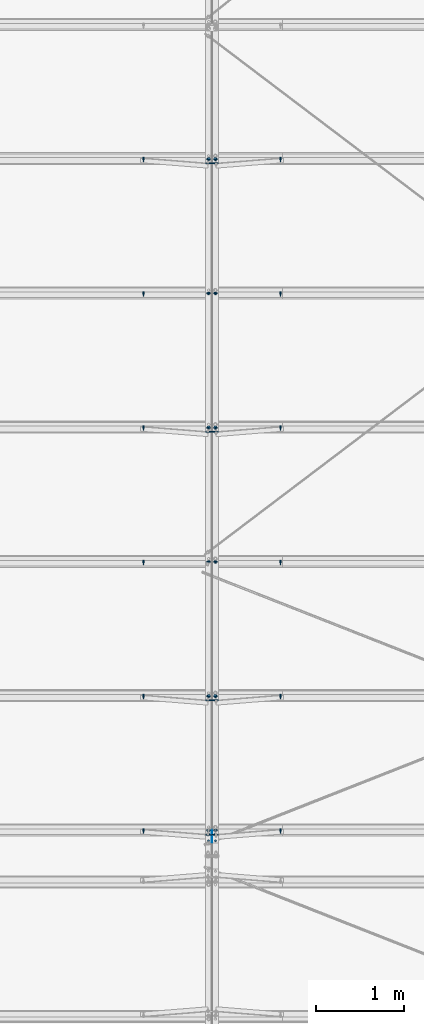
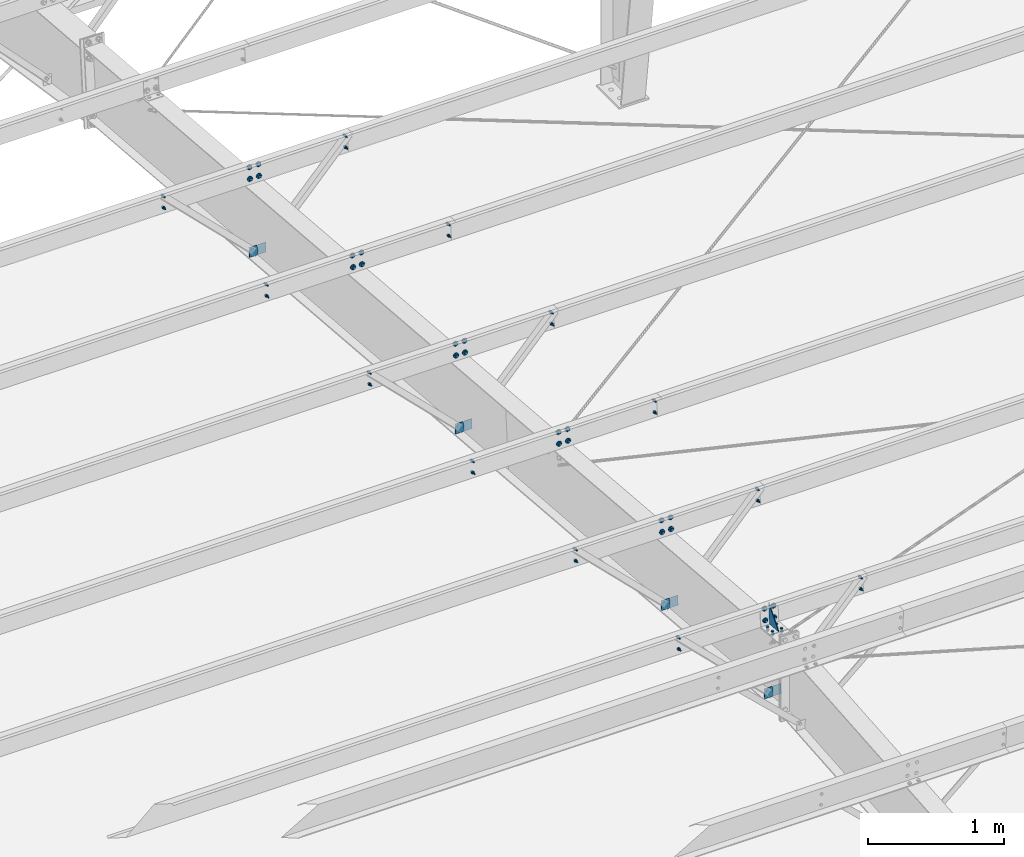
# One storey, part 95 of 185: 25 mechanical fasteners, 9 discrete accessories, 14 elements without a shape of their own.
"""IFC2X3 building model written with IfcOpenShell, lengths in millimetres."""

from ifc_helpers import new_model, si_unit, frame, origin_with_axes, origin_2d_with_axis, place, context, subcontext, project, spatial, polyline, rectangle, circle, outline, extrude, source, transform, mapped, material, type_object, element, aggregate, save


model = new_model("IFC2X3")

# Units and contexts
model_context = context("Model", 3, precision=1e-05, world=origin_with_axes())
body_context = subcontext(model_context, "Body", "Model", "MODEL_VIEW")
ifc_project = project(units=[si_unit("LENGTHUNIT", "METRE", prefix="MILLI"), si_unit("AREAUNIT", "SQUARE_METRE"), si_unit("VOLUMEUNIT", "CUBIC_METRE"), si_unit("MASSUNIT", "GRAM", prefix="KILO"), si_unit("TIMEUNIT", "SECOND"), si_unit("PLANEANGLEUNIT", "RADIAN"), si_unit("SOLIDANGLEUNIT", "STERADIAN"), si_unit("THERMODYNAMICTEMPERATUREUNIT", "DEGREE_CELSIUS"), si_unit("LUMINOUSINTENSITYUNIT", "LUMEN")], contexts=[model_context])

# Site, building, storey
site_placement = place(None, origin_with_axes())
site = spatial("IfcSite", under=ifc_project, at=site_placement, Name="Undefined", CompositionType="ELEMENT")
building_placement = place(site_placement, origin_with_axes())
building = spatial("IfcBuilding", under=site, at=building_placement, Name="Undefined", CompositionType="ELEMENT")
storey_placement = place(building_placement, origin_with_axes())
storey = spatial("IfcBuildingStorey", under=building, at=storey_placement, Name="Undefined", CompositionType="ELEMENT", Elevation=0.0)

# Assembly, mechanical fastener
assembly_1_placement = place(storey_placement, origin_with_axes())
assembly_1 = element("IfcElementAssembly", 1, at=assembly_1_placement, inside=storey, Name="Steel Assembly", AssemblyPlace="NOTDEFINED", PredefinedType="RIGID_FRAME")
ifc_material_1 = material(Name="Undefined")
discrete_accessory_type_1 = type_object("IfcDiscreteAccessoryType", Name="Bolt assembly")
shared_shape_1 = source(origin_with_axes(), body_context, "Body", "SweptSolid", [
    extrude(circle(Radius=7.14374971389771, at=origin_2d_with_axis()), frame((0.0, -1.59000001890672, 0.0), z_axis=(0.0, 1.0, 0.0), x_axis=(1.0, 0.0, 0.0)), (0.0, 0.0, 1.0), 3.3),
    extrude(circle(Radius=13.4937496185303, at=origin_2d_with_axis()), frame((0.0, -5.5587500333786, 0.0), z_axis=(0.0, 1.0, 0.0), x_axis=(1.0, 0.0, 0.0)), (0.0, 0.0, 1.0), 4.0),
    extrude(circle(Radius=22.2250003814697, at=origin_2d_with_axis()), frame((0.0, 1.5900000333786, 0.0), z_axis=(0.0, 1.0, 0.0), x_axis=(1.0, 0.0, 0.0)), (0.0, 0.0, 1.0), 7.9),
    extrude(outline(polyline([(12.8316099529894, 0.0), (6.4158049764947, 11.1125001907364), (-6.4158049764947, 11.1125001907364), (-12.8316099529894, 0.0), (-6.4158049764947, -11.1125001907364), (6.4158049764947, -11.1125001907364), (12.8316099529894, 0.0)])), frame((0.0, 9.5275000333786, 0.0), z_axis=(0.0, 1.0, 0.0), x_axis=(1.0, 0.0, 0.0)), (0.0, 0.0, 1.0), 12.3),
])
mechanical_fastener_1_placement = place(assembly_1_placement, frame((30060.9, 23895.2066900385, 6720.75669348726), z_axis=(-1.0, 0.0, 0.0), x_axis=(0.0, -0.0830454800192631, -0.996545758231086)))
mechanical_fastener_1 = element("IfcMechanicalFastener", 2, at=mechanical_fastener_1_placement, type_object=discrete_accessory_type_1, material=ifc_material_1, Name="Bolt assembly", NominalDiameter=12.6999998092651, NominalLength=38.0999984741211, context=body_context, shape_type="MappedRepresentation", body=[
    mapped(shared_shape_1, transform((0.0, 0.0, 0.0))),
    mapped(shared_shape_1, transform((101.599998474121, 0.0, 0.0))),
])
aggregate(assembly_1, [mechanical_fastener_1])

assembly_2_placement = place(storey_placement, origin_with_axes())
assembly_2 = element("IfcElementAssembly", 3, at=assembly_2_placement, inside=storey, Name="Steel Assembly", AssemblyPlace="NOTDEFINED", PredefinedType="RIGID_FRAME")
mechanical_fastener_2_placement = place(assembly_2_placement, frame((30137.1, 23895.2066900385, 6720.75669348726), z_axis=(-1.0, 0.0, 0.0), x_axis=(0.0, -0.0830454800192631, -0.996545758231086)))
mechanical_fastener_2 = element("IfcMechanicalFastener", 4, at=mechanical_fastener_2_placement, type_object=discrete_accessory_type_1, material=ifc_material_1, Name="Bolt assembly", NominalDiameter=12.6999998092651, NominalLength=38.0999984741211, context=body_context, shape_type="MappedRepresentation", body=[
    mapped(shared_shape_1, transform((0.0, 0.0, 0.0))),
    mapped(shared_shape_1, transform((101.599998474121, 0.0, 0.0))),
])

assembly_3_placement = place(storey_placement, origin_with_axes())
assembly_3 = element("IfcElementAssembly", 5, at=assembly_3_placement, inside=storey, Name="Steel Assembly", AssemblyPlace="NOTDEFINED", PredefinedType="RIGID_FRAME")
mechanical_fastener_3_placement = place(assembly_3_placement, frame((30060.9, 22376.4709544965, 6847.31800504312), z_axis=(-1.0, 0.0, 0.0), x_axis=(0.0, -0.0830454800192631, -0.996545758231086)))
mechanical_fastener_3 = element("IfcMechanicalFastener", 6, at=mechanical_fastener_3_placement, type_object=discrete_accessory_type_1, material=ifc_material_1, Name="Bolt assembly", NominalDiameter=12.6999998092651, NominalLength=38.0999984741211, context=body_context, shape_type="MappedRepresentation", body=[
    mapped(shared_shape_1, transform((0.0, 0.0, 0.0))),
    mapped(shared_shape_1, transform((101.599998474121, 0.0, 0.0))),
])
aggregate(assembly_3, [mechanical_fastener_3])

assembly_4_placement = place(storey_placement, origin_with_axes())
assembly_4 = element("IfcElementAssembly", 7, at=assembly_4_placement, inside=storey, Name="Steel Assembly", AssemblyPlace="NOTDEFINED", PredefinedType="RIGID_FRAME")
mechanical_fastener_4_placement = place(assembly_4_placement, frame((30137.1, 22376.4709544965, 6847.31800504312), z_axis=(-1.0, 0.0, 0.0), x_axis=(0.0, -0.0830454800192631, -0.996545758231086)))
mechanical_fastener_4 = element("IfcMechanicalFastener", 8, at=mechanical_fastener_4_placement, type_object=discrete_accessory_type_1, material=ifc_material_1, Name="Bolt assembly", NominalDiameter=12.6999998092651, NominalLength=38.0999984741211, context=body_context, shape_type="MappedRepresentation", body=[
    mapped(shared_shape_1, transform((0.0, 0.0, 0.0))),
    mapped(shared_shape_1, transform((101.599998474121, 0.0, 0.0))),
])

assembly_5_placement = place(storey_placement, origin_with_axes())
assembly_5 = element("IfcElementAssembly", 9, at=assembly_5_placement, inside=storey, Name="Steel Assembly", AssemblyPlace="NOTDEFINED", PredefinedType="RIGID_FRAME")
mechanical_fastener_5_placement = place(assembly_5_placement, frame((30060.9, 20857.7352189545, 6973.87931659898), z_axis=(-1.0, 0.0, 0.0), x_axis=(0.0, -0.0830454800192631, -0.996545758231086)))
mechanical_fastener_5 = element("IfcMechanicalFastener", 10, at=mechanical_fastener_5_placement, type_object=discrete_accessory_type_1, material=ifc_material_1, Name="Bolt assembly", NominalDiameter=12.6999998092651, NominalLength=38.0999984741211, context=body_context, shape_type="MappedRepresentation", body=[
    mapped(shared_shape_1, transform((0.0, 0.0, 0.0))),
    mapped(shared_shape_1, transform((101.599998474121, 0.0, 0.0))),
])
aggregate(assembly_5, [mechanical_fastener_5])

assembly_6_placement = place(storey_placement, origin_with_axes())
assembly_6 = element("IfcElementAssembly", 11, at=assembly_6_placement, inside=storey, Name="Steel Assembly", AssemblyPlace="NOTDEFINED", PredefinedType="RIGID_FRAME")
mechanical_fastener_6_placement = place(assembly_6_placement, frame((30137.1, 20857.7352189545, 6973.87931659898), z_axis=(-1.0, 0.0, 0.0), x_axis=(0.0, -0.0830454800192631, -0.996545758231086)))
mechanical_fastener_6 = element("IfcMechanicalFastener", 12, at=mechanical_fastener_6_placement, type_object=discrete_accessory_type_1, material=ifc_material_1, Name="Bolt assembly", NominalDiameter=12.6999998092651, NominalLength=38.0999984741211, context=body_context, shape_type="MappedRepresentation", body=[
    mapped(shared_shape_1, transform((0.0, 0.0, 0.0))),
    mapped(shared_shape_1, transform((101.599998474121, 0.0, 0.0))),
])

assembly_7_placement = place(storey_placement, origin_with_axes())
assembly_7 = element("IfcElementAssembly", 13, at=assembly_7_placement, inside=storey, Name="Steel Assembly", AssemblyPlace="NOTDEFINED", PredefinedType="RIGID_FRAME")
mechanical_fastener_7_placement = place(assembly_7_placement, frame((30060.9, 19338.9994834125, 7100.44062815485), z_axis=(-1.0, 0.0, 0.0), x_axis=(0.0, -0.0830454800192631, -0.996545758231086)))
mechanical_fastener_7 = element("IfcMechanicalFastener", 14, at=mechanical_fastener_7_placement, type_object=discrete_accessory_type_1, material=ifc_material_1, Name="Bolt assembly", NominalDiameter=12.6999998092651, NominalLength=38.0999984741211, context=body_context, shape_type="MappedRepresentation", body=[
    mapped(shared_shape_1, transform((0.0, 0.0, 0.0))),
    mapped(shared_shape_1, transform((101.599998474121, 0.0, 0.0))),
])
aggregate(assembly_7, [mechanical_fastener_7])

assembly_8_placement = place(storey_placement, origin_with_axes())
assembly_8 = element("IfcElementAssembly", 15, at=assembly_8_placement, inside=storey, Name="Steel Assembly", AssemblyPlace="NOTDEFINED", PredefinedType="RIGID_FRAME")
mechanical_fastener_8_placement = place(assembly_8_placement, frame((30137.1, 19338.9994834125, 7100.44062815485), z_axis=(-1.0, 0.0, 0.0), x_axis=(0.0, -0.0830454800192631, -0.996545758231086)))
mechanical_fastener_8 = element("IfcMechanicalFastener", 16, at=mechanical_fastener_8_placement, type_object=discrete_accessory_type_1, material=ifc_material_1, Name="Bolt assembly", NominalDiameter=12.6999998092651, NominalLength=38.0999984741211, context=body_context, shape_type="MappedRepresentation", body=[
    mapped(shared_shape_1, transform((0.0, 0.0, 0.0))),
    mapped(shared_shape_1, transform((101.599998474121, 0.0, 0.0))),
])

assembly_9_placement = place(storey_placement, origin_with_axes())
assembly_9 = element("IfcElementAssembly", 17, at=assembly_9_placement, inside=storey, Name="Steel Assembly", AssemblyPlace="NOTDEFINED", PredefinedType="RIGID_FRAME")
mechanical_fastener_9_placement = place(assembly_9_placement, frame((30060.9, 17820.2637478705, 7227.00193971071), z_axis=(-1.0, 0.0, 0.0), x_axis=(0.0, -0.0830454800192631, -0.996545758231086)))
mechanical_fastener_9 = element("IfcMechanicalFastener", 18, at=mechanical_fastener_9_placement, type_object=discrete_accessory_type_1, material=ifc_material_1, Name="Bolt assembly", NominalDiameter=12.6999998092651, NominalLength=38.0999984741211, context=body_context, shape_type="MappedRepresentation", body=[
    mapped(shared_shape_1, transform((0.0, 0.0, 0.0))),
    mapped(shared_shape_1, transform((101.599998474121, 0.0, 0.0))),
])
aggregate(assembly_9, [mechanical_fastener_9])

assembly_10_placement = place(storey_placement, origin_with_axes())
assembly_10 = element("IfcElementAssembly", 19, at=assembly_10_placement, inside=storey, Name="Steel Assembly", AssemblyPlace="NOTDEFINED", PredefinedType="RIGID_FRAME")
mechanical_fastener_10_placement = place(assembly_10_placement, frame((30137.1, 17820.2637478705, 7227.00193971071), z_axis=(-1.0, 0.0, 0.0), x_axis=(0.0, -0.0830454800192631, -0.996545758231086)))
mechanical_fastener_10 = element("IfcMechanicalFastener", 20, at=mechanical_fastener_10_placement, type_object=discrete_accessory_type_1, material=ifc_material_1, Name="Bolt assembly", NominalDiameter=12.6999998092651, NominalLength=38.0999984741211, context=body_context, shape_type="MappedRepresentation", body=[
    mapped(shared_shape_1, transform((0.0, 0.0, 0.0))),
    mapped(shared_shape_1, transform((101.599998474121, 0.0, 0.0))),
])

assembly_11_placement = place(storey_placement, origin_with_axes())
assembly_11 = element("IfcElementAssembly", 21, at=assembly_11_placement, inside=storey, Name="Steel Assembly", AssemblyPlace="NOTDEFINED", PredefinedType="RIGID_FRAME")
mechanical_fastener_11_placement = place(assembly_11_placement, frame((30060.9, 16301.5280123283, 7353.56325126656), z_axis=(-1.0, 0.0, 0.0), x_axis=(0.0, -0.0830454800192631, -0.996545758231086)))
mechanical_fastener_11 = element("IfcMechanicalFastener", 22, at=mechanical_fastener_11_placement, type_object=discrete_accessory_type_1, material=ifc_material_1, Name="Bolt assembly", NominalDiameter=12.6999998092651, NominalLength=38.0999984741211, context=body_context, shape_type="MappedRepresentation", body=[
    mapped(shared_shape_1, transform((0.0, 0.0, 0.0))),
    mapped(shared_shape_1, transform((101.599998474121, 0.0, 0.0))),
])
aggregate(assembly_11, [mechanical_fastener_11])

assembly_12_placement = place(storey_placement, origin_with_axes())
assembly_12 = element("IfcElementAssembly", 23, at=assembly_12_placement, inside=storey, Name="Steel Assembly", AssemblyPlace="NOTDEFINED", PredefinedType="RIGID_FRAME")
mechanical_fastener_12_placement = place(assembly_12_placement, frame((30137.1, 16301.5280123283, 7353.56325126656), z_axis=(-1.0, 0.0, 0.0), x_axis=(0.0, -0.0830454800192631, -0.996545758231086)))
mechanical_fastener_12 = element("IfcMechanicalFastener", 24, at=mechanical_fastener_12_placement, type_object=discrete_accessory_type_1, material=ifc_material_1, Name="Bolt assembly", NominalDiameter=12.6999998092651, NominalLength=38.0999984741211, context=body_context, shape_type="MappedRepresentation", body=[
    mapped(shared_shape_1, transform((0.0, 0.0, 0.0))),
    mapped(shared_shape_1, transform((101.599998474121, 0.0, 0.0))),
])

# Assembly, discrete accessory
assembly_13_placement = place(storey_placement, origin_with_axes())
assembly_13 = element("IfcElementAssembly", 25, at=assembly_13_placement, inside=storey, Name="Steel Assembly", AssemblyPlace="NOTDEFINED", PredefinedType="RIGID_FRAME")
ifc_material_2 = material(Name="STEEL/55")
discrete_accessory_type_2 = type_object("IfcDiscreteAccessoryType", Name="PLATE")
discrete_accessory_1_placement = place(assembly_13_placement, frame((30099.0, 16150.1817775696, 7219.6191968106), z_axis=(1.0, 0.0, 0.0), x_axis=(0.0, 0.996545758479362, -0.0830454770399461)))
discrete_accessory_1 = element("IfcDiscreteAccessory", 26, at=discrete_accessory_1_placement, type_object=discrete_accessory_type_2, material=ifc_material_2, Name="PLATE", ObjectType="FL1/4\"X5 1/4\"", context=body_context, shape_type="SweptSolid", body=[
    extrude(outline(polyline([(0.0, 0.0), (133.350006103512, 3.70164343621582e-10), (133.350006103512, 190.500000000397), (0.0, 0.0)])), frame((0.0, 0.0, -3.175), z_axis=(0.0, 0.0, 1.0), x_axis=(1.0, 0.0, 0.0)), (0.0, 0.0, 1.0), 6.4),
])

# Assembly, discrete accessories
assembly_14_placement = place(storey_placement, origin_with_axes())
assembly_14 = element("IfcElementAssembly", 27, at=assembly_14_placement, inside=storey, Name="Steel Assembly", AssemblyPlace="NOTDEFINED", PredefinedType="RIGID_FRAME")
discrete_accessory_type_3 = type_object("IfcDiscreteAccessoryType", Name="FLANGE BRACE FLIP")
discrete_accessory_2_placement = place(assembly_14_placement, frame((30097.29185, 23836.5274434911, 5996.03869127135), z_axis=(0.0, 0.0830454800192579, 0.996545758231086), x_axis=(-1.0, 0.0, 0.0)))
discrete_accessory_2 = element("IfcDiscreteAccessory", 28, at=discrete_accessory_2_placement, type_object=discrete_accessory_type_3, material=ifc_material_2, Name="FLANGE BRACE FLIP", ObjectType="PL1/8\"X2 3/4\"", context=body_context, shape_type="SweptSolid", body=[
    extrude(rectangle(XDim=3.416, YDim=85.725, at=origin_2d_with_axis()), frame((69.8499999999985, 0.0, 0.0), z_axis=(-1.0, 0.0, 0.0), x_axis=(0.0, -1.0, 0.0)), (0.0, 0.0, 1.0), 69.8),
])
discrete_accessory_3_placement = place(assembly_14_placement, frame((30100.70815, 23836.5274434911, 5996.03869127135), z_axis=(0.0, 0.0830454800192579, 0.996545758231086), x_axis=(1.0, 0.0, 0.0)))
discrete_accessory_3 = element("IfcDiscreteAccessory", 29, at=discrete_accessory_3_placement, type_object=discrete_accessory_type_3, material=ifc_material_2, Name="FLANGE BRACE FLIP", ObjectType="PL1/8\"X2 3/4\"", context=body_context, shape_type="SweptSolid", body=[
    extrude(rectangle(XDim=3.416, YDim=85.725, at=origin_2d_with_axis()), frame((69.8499999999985, 0.0, 0.0), z_axis=(-1.0, 0.0, 0.0), x_axis=(0.0, -1.0, 0.0)), (0.0, 0.0, 1.0), 69.8),
])
discrete_accessory_4_placement = place(assembly_14_placement, frame((30097.29185, 16242.8487656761, 6628.84524779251), z_axis=(0.0, 0.0830454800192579, 0.996545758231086), x_axis=(-1.0, 0.0, 0.0)))
discrete_accessory_4 = element("IfcDiscreteAccessory", 30, at=discrete_accessory_4_placement, type_object=discrete_accessory_type_3, material=ifc_material_2, Name="FLANGE BRACE FLIP", ObjectType="PL1/8\"X2 3/4\"", context=body_context, shape_type="SweptSolid", body=[
    extrude(rectangle(XDim=3.416, YDim=85.725, at=origin_2d_with_axis()), frame((69.8499999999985, 0.0, 0.0), z_axis=(-1.0, 0.0, 0.0), x_axis=(0.0, -1.0, 0.0)), (0.0, 0.0, 1.0), 69.8),
])
discrete_accessory_5_placement = place(assembly_14_placement, frame((30100.70815, 16242.8487656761, 6628.84524779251), z_axis=(0.0, 0.0830454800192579, 0.996545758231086), x_axis=(1.0, 0.0, 0.0)))
discrete_accessory_5 = element("IfcDiscreteAccessory", 31, at=discrete_accessory_5_placement, type_object=discrete_accessory_type_3, material=ifc_material_2, Name="FLANGE BRACE FLIP", ObjectType="PL1/8\"X2 3/4\"", context=body_context, shape_type="SweptSolid", body=[
    extrude(rectangle(XDim=3.416, YDim=85.725, at=origin_2d_with_axis()), frame((69.8499999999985, 0.0, 0.0), z_axis=(-1.0, 0.0, 0.0), x_axis=(0.0, -1.0, 0.0)), (0.0, 0.0, 1.0), 69.8),
])
discrete_accessory_6_placement = place(assembly_14_placement, frame((30097.29185, 17761.5845012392, 6502.28393648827), z_axis=(0.0, 0.0830454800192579, 0.996545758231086), x_axis=(-1.0, 0.0, 0.0)))
discrete_accessory_6 = element("IfcDiscreteAccessory", 32, at=discrete_accessory_6_placement, type_object=discrete_accessory_type_3, material=ifc_material_2, Name="FLANGE BRACE FLIP", ObjectType="PL1/8\"X2 3/4\"", context=body_context, shape_type="SweptSolid", body=[
    extrude(rectangle(XDim=3.416, YDim=85.725, at=origin_2d_with_axis()), frame((69.8499999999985, 0.0, 0.0), z_axis=(-1.0, 0.0, 0.0), x_axis=(0.0, -1.0, 0.0)), (0.0, 0.0, 1.0), 69.8),
])
discrete_accessory_7_placement = place(assembly_14_placement, frame((30100.70815, 17761.5845012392, 6502.28393648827), z_axis=(0.0, 0.0830454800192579, 0.996545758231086), x_axis=(1.0, 0.0, 0.0)))
discrete_accessory_7 = element("IfcDiscreteAccessory", 33, at=discrete_accessory_7_placement, type_object=discrete_accessory_type_3, material=ifc_material_2, Name="FLANGE BRACE FLIP", ObjectType="PL1/8\"X2 3/4\"", context=body_context, shape_type="SweptSolid", body=[
    extrude(rectangle(XDim=3.416, YDim=85.725, at=origin_2d_with_axis()), frame((69.8499999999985, 0.0, 0.0), z_axis=(-1.0, 0.0, 0.0), x_axis=(0.0, -1.0, 0.0)), (0.0, 0.0, 1.0), 69.8),
])
discrete_accessory_8_placement = place(assembly_14_placement, frame((30097.29185, 20799.0559723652, 6249.16131387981), z_axis=(0.0, 0.0830454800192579, 0.996545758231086), x_axis=(-1.0, 0.0, 0.0)))
discrete_accessory_8 = element("IfcDiscreteAccessory", 34, at=discrete_accessory_8_placement, type_object=discrete_accessory_type_3, material=ifc_material_2, Name="FLANGE BRACE FLIP", ObjectType="PL1/8\"X2 3/4\"", context=body_context, shape_type="SweptSolid", body=[
    extrude(rectangle(XDim=3.416, YDim=85.725, at=origin_2d_with_axis()), frame((69.8499999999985, 0.0, 0.0), z_axis=(-1.0, 0.0, 0.0), x_axis=(0.0, -1.0, 0.0)), (0.0, 0.0, 1.0), 69.8),
])
discrete_accessory_9_placement = place(assembly_14_placement, frame((30100.70815, 20799.0559723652, 6249.16131387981), z_axis=(0.0, 0.0830454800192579, 0.996545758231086), x_axis=(1.0, 0.0, 0.0)))
discrete_accessory_9 = element("IfcDiscreteAccessory", 35, at=discrete_accessory_9_placement, type_object=discrete_accessory_type_3, material=ifc_material_2, Name="FLANGE BRACE FLIP", ObjectType="PL1/8\"X2 3/4\"", context=body_context, shape_type="SweptSolid", body=[
    extrude(rectangle(XDim=3.416, YDim=85.725, at=origin_2d_with_axis()), frame((69.8499999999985, 0.0, 0.0), z_axis=(-1.0, 0.0, 0.0), x_axis=(0.0, -1.0, 0.0)), (0.0, 0.0, 1.0), 69.8),
])
aggregate(assembly_14, [discrete_accessory_2, discrete_accessory_3, discrete_accessory_4, discrete_accessory_5, discrete_accessory_6, discrete_accessory_7, discrete_accessory_8, discrete_accessory_9])

# Mechanical fastener
shared_shape_2 = source(origin_with_axes(), body_context, "Body", "SweptSolid", [
    extrude(circle(Radius=7.14374971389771, at=origin_2d_with_axis()), frame((0.0, -0.0238014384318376, 0.0), z_axis=(0.0, 1.0, 0.0), x_axis=(1.0, 0.0, 0.0)), (0.0, 0.0, 1.0), 8.0),
    extrude(circle(Radius=7.14374971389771, at=origin_2d_with_axis()), frame((0.0, -6.24999999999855, 0.0), z_axis=(0.0, 1.0, 0.0), x_axis=(1.0, 0.0, 0.0)), (0.0, 0.0, 1.0), 6.4),
    extrude(outline(polyline([(10.9985221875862, 0.0), (5.4992610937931, 9.52499961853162), (-5.4992610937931, 9.52499961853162), (-10.9985221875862, 0.0), (-5.4992610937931, -9.52499961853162), (5.4992610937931, -9.52499961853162), (10.9985221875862, 0.0)])), frame((0.0, -15.8750000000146, 0.0), z_axis=(0.0, 1.0, 0.0), x_axis=(1.0, 0.0, 0.0)), (0.0, 0.0, 1.0), 9.5),
    extrude(circle(Radius=6.34999990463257, at=origin_2d_with_axis()), frame((0.0, -6.34999953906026, 0.0), z_axis=(0.0, 1.0, 0.0), x_axis=(1.0, 0.0, 0.0)), (0.0, 0.0, 1.0), 38.1),
    extrude(outline(polyline([(12.8316099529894, 0.0), (6.4158049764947, 11.1125001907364), (-6.4158049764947, 11.1125001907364), (-12.8316099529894, 0.0), (-6.4158049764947, -11.1125001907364), (6.4158049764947, -11.1125001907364), (12.8316099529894, 0.0)])), frame((0.0, 7.95019856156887, 0.0), z_axis=(0.0, 1.0, 0.0), x_axis=(1.0, 0.0, 0.0)), (0.0, 0.0, 1.0), 12.3),
])
mechanical_fastener_13_placement = place(assembly_13_placement, frame((30099.0, 16250.9034878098, 7204.85371049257), z_axis=(1.0, 0.0, 0.0), x_axis=(0.0, -0.996545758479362, 0.0830454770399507)))
mechanical_fastener_13 = element("IfcMechanicalFastener", 36, at=mechanical_fastener_13_placement, type_object=discrete_accessory_type_1, material=ifc_material_1, Name="Bolt assembly", NominalDiameter=12.6999998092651, NominalLength=38.0999984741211, context=body_context, shape_type="MappedRepresentation", body=[
    mapped(shared_shape_2, transform((0.0, 0.0, -38.0999984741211))),
    mapped(shared_shape_2, transform((76.1999969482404, -1.38243194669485e-10, -38.0999984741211))),
    mapped(shared_shape_2, transform((0.0, 0.0, 38.0999984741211))),
    mapped(shared_shape_2, transform((76.1999969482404, -1.38243194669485e-10, 38.0999984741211))),
])

aggregate(assembly_13, [mechanical_fastener_13, discrete_accessory_1])

shared_shape_3 = source(origin_with_axes(), body_context, "Body", "SweptSolid", [
    extrude(circle(Radius=7.14374971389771, at=origin_2d_with_axis()), frame((0.0, -1.4900000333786, 0.0), z_axis=(0.0, 1.0, 0.0), x_axis=(1.0, 0.0, 0.0)), (0.0, 0.0, 1.0), 3.2),
    extrude(circle(Radius=7.14374971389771, at=origin_2d_with_axis()), frame((0.0, -1.4900000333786, 0.0), z_axis=(0.0, 1.0, 0.0), x_axis=(1.0, 0.0, 0.0)), (0.0, 0.0, 1.0), 3.2),
    extrude(outline(polyline([(10.9985221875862, 0.0), (5.4992610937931, 9.52499961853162), (-5.4992610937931, 9.52499961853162), (-10.9985221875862, 0.0), (-5.4992610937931, -9.52499961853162), (5.4992610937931, -9.52499961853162), (10.9985221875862, 0.0)])), frame((0.0, -11.1149996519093, 0.0), z_axis=(0.0, 1.0, 0.0), x_axis=(1.0, 0.0, 0.0)), (0.0, 0.0, 1.0), 9.5),
    extrude(circle(Radius=6.34999990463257, at=origin_2d_with_axis()), frame((0.0, -1.59000001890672, 0.0), z_axis=(0.0, 1.0, 0.0), x_axis=(1.0, 0.0, 0.0)), (0.0, 0.0, 1.0), 38.1),
    extrude(outline(polyline([(12.8316099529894, 0.0), (6.4158049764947, 11.1125001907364), (-6.4158049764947, 11.1125001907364), (-12.8316099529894, 0.0), (-6.4158049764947, -11.1125001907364), (6.4158049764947, -11.1125001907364), (12.8316099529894, 0.0)])), frame((0.0, 1.5900000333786, 0.0), z_axis=(0.0, 1.0, 0.0), x_axis=(1.0, 0.0, 0.0)), (0.0, 0.0, 1.0), 12.3),
])
mechanical_fastener_14_placement = place(assembly_2_placement, frame((29324.3, 23895.2066900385, 6720.75669348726), z_axis=(-1.0, 0.0, 0.0), x_axis=(0.0, -0.0830454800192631, -0.996545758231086)))
mechanical_fastener_14 = element("IfcMechanicalFastener", 37, at=mechanical_fastener_14_placement, type_object=discrete_accessory_type_1, material=ifc_material_1, Name="Bolt assembly", NominalDiameter=12.6999998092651, NominalLength=38.0999984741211, context=body_context, shape_type="MappedRepresentation", body=[
    mapped(shared_shape_3, transform((0.0, 0.0, 0.0))),
    mapped(shared_shape_3, transform((101.599998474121, 0.0, 0.0))),
])

mechanical_fastener_15_placement = place(assembly_2_placement, frame((30873.7, 23895.2066900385, 6720.75669348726), z_axis=(-1.0, 0.0, 0.0), x_axis=(0.0, -0.0830454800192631, -0.996545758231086)))
mechanical_fastener_15 = element("IfcMechanicalFastener", 38, at=mechanical_fastener_15_placement, type_object=discrete_accessory_type_1, material=ifc_material_1, Name="Bolt assembly", NominalDiameter=12.6999998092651, NominalLength=38.0999984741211, context=body_context, shape_type="MappedRepresentation", body=[
    mapped(shared_shape_3, transform((0.0, 0.0, 0.0))),
    mapped(shared_shape_3, transform((101.599998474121, 0.0, 0.0))),
])

aggregate(assembly_2, [mechanical_fastener_2, mechanical_fastener_14, mechanical_fastener_15])

mechanical_fastener_16_placement = place(assembly_4_placement, frame((29324.3, 22376.4709544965, 6847.31800504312), z_axis=(-1.0, 0.0, 0.0), x_axis=(0.0, -0.0830454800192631, -0.996545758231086)))
mechanical_fastener_16 = element("IfcMechanicalFastener", 39, at=mechanical_fastener_16_placement, type_object=discrete_accessory_type_1, material=ifc_material_1, Name="Bolt assembly", NominalDiameter=12.6999998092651, NominalLength=38.0999984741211, context=body_context, shape_type="MappedRepresentation", body=[
    mapped(shared_shape_3, transform((0.0, 0.0, 0.0))),
    mapped(shared_shape_3, transform((101.599998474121, 0.0, 0.0))),
])

mechanical_fastener_17_placement = place(assembly_4_placement, frame((30873.7, 22376.4709544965, 6847.31800504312), z_axis=(-1.0, 0.0, 0.0), x_axis=(0.0, -0.0830454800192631, -0.996545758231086)))
mechanical_fastener_17 = element("IfcMechanicalFastener", 40, at=mechanical_fastener_17_placement, type_object=discrete_accessory_type_1, material=ifc_material_1, Name="Bolt assembly", NominalDiameter=12.6999998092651, NominalLength=38.0999984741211, context=body_context, shape_type="MappedRepresentation", body=[
    mapped(shared_shape_3, transform((0.0, 0.0, 0.0))),
    mapped(shared_shape_3, transform((101.599998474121, 0.0, 0.0))),
])

aggregate(assembly_4, [mechanical_fastener_4, mechanical_fastener_16, mechanical_fastener_17])

mechanical_fastener_18_placement = place(assembly_6_placement, frame((29324.3, 20857.7352189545, 6973.87931659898), z_axis=(-1.0, 0.0, 0.0), x_axis=(0.0, -0.0830454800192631, -0.996545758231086)))
mechanical_fastener_18 = element("IfcMechanicalFastener", 41, at=mechanical_fastener_18_placement, type_object=discrete_accessory_type_1, material=ifc_material_1, Name="Bolt assembly", NominalDiameter=12.6999998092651, NominalLength=38.0999984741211, context=body_context, shape_type="MappedRepresentation", body=[
    mapped(shared_shape_3, transform((0.0, 0.0, 0.0))),
    mapped(shared_shape_3, transform((101.599998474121, 0.0, 0.0))),
])

mechanical_fastener_19_placement = place(assembly_6_placement, frame((30873.7, 20857.7352189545, 6973.87931659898), z_axis=(-1.0, 0.0, 0.0), x_axis=(0.0, -0.0830454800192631, -0.996545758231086)))
mechanical_fastener_19 = element("IfcMechanicalFastener", 42, at=mechanical_fastener_19_placement, type_object=discrete_accessory_type_1, material=ifc_material_1, Name="Bolt assembly", NominalDiameter=12.6999998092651, NominalLength=38.0999984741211, context=body_context, shape_type="MappedRepresentation", body=[
    mapped(shared_shape_3, transform((0.0, 0.0, 0.0))),
    mapped(shared_shape_3, transform((101.599998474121, 0.0, 0.0))),
])

aggregate(assembly_6, [mechanical_fastener_6, mechanical_fastener_18, mechanical_fastener_19])

mechanical_fastener_20_placement = place(assembly_8_placement, frame((29324.3, 19338.9994834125, 7100.44062815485), z_axis=(-1.0, 0.0, 0.0), x_axis=(0.0, -0.0830454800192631, -0.996545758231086)))
mechanical_fastener_20 = element("IfcMechanicalFastener", 43, at=mechanical_fastener_20_placement, type_object=discrete_accessory_type_1, material=ifc_material_1, Name="Bolt assembly", NominalDiameter=12.6999998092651, NominalLength=38.0999984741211, context=body_context, shape_type="MappedRepresentation", body=[
    mapped(shared_shape_3, transform((0.0, 0.0, 0.0))),
    mapped(shared_shape_3, transform((101.599998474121, 0.0, 0.0))),
])

mechanical_fastener_21_placement = place(assembly_8_placement, frame((30873.7, 19338.9994834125, 7100.44062815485), z_axis=(-1.0, 0.0, 0.0), x_axis=(0.0, -0.0830454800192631, -0.996545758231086)))
mechanical_fastener_21 = element("IfcMechanicalFastener", 44, at=mechanical_fastener_21_placement, type_object=discrete_accessory_type_1, material=ifc_material_1, Name="Bolt assembly", NominalDiameter=12.6999998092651, NominalLength=38.0999984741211, context=body_context, shape_type="MappedRepresentation", body=[
    mapped(shared_shape_3, transform((0.0, 0.0, 0.0))),
    mapped(shared_shape_3, transform((101.599998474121, 0.0, 0.0))),
])

aggregate(assembly_8, [mechanical_fastener_8, mechanical_fastener_20, mechanical_fastener_21])

mechanical_fastener_22_placement = place(assembly_10_placement, frame((29324.3, 17820.2637478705, 7227.00193971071), z_axis=(-1.0, 0.0, 0.0), x_axis=(0.0, -0.0830454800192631, -0.996545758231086)))
mechanical_fastener_22 = element("IfcMechanicalFastener", 45, at=mechanical_fastener_22_placement, type_object=discrete_accessory_type_1, material=ifc_material_1, Name="Bolt assembly", NominalDiameter=12.6999998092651, NominalLength=38.0999984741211, context=body_context, shape_type="MappedRepresentation", body=[
    mapped(shared_shape_3, transform((0.0, 0.0, 0.0))),
    mapped(shared_shape_3, transform((101.599998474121, 0.0, 0.0))),
])

mechanical_fastener_23_placement = place(assembly_10_placement, frame((30873.7, 17820.2637478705, 7227.00193971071), z_axis=(-1.0, 0.0, 0.0), x_axis=(0.0, -0.0830454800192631, -0.996545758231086)))
mechanical_fastener_23 = element("IfcMechanicalFastener", 46, at=mechanical_fastener_23_placement, type_object=discrete_accessory_type_1, material=ifc_material_1, Name="Bolt assembly", NominalDiameter=12.6999998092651, NominalLength=38.0999984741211, context=body_context, shape_type="MappedRepresentation", body=[
    mapped(shared_shape_3, transform((0.0, 0.0, 0.0))),
    mapped(shared_shape_3, transform((101.599998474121, 0.0, 0.0))),
])

aggregate(assembly_10, [mechanical_fastener_10, mechanical_fastener_22, mechanical_fastener_23])

mechanical_fastener_24_placement = place(assembly_12_placement, frame((29324.3, 16301.5280123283, 7353.56325126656), z_axis=(-1.0, 0.0, 0.0), x_axis=(0.0, -0.0830454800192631, -0.996545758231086)))
mechanical_fastener_24 = element("IfcMechanicalFastener", 47, at=mechanical_fastener_24_placement, type_object=discrete_accessory_type_1, material=ifc_material_1, Name="Bolt assembly", NominalDiameter=12.6999998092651, NominalLength=38.0999984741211, context=body_context, shape_type="MappedRepresentation", body=[
    mapped(shared_shape_3, transform((0.0, 0.0, 0.0))),
    mapped(shared_shape_3, transform((101.599998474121, 0.0, 0.0))),
])

mechanical_fastener_25_placement = place(assembly_12_placement, frame((30873.7, 16301.5280123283, 7353.56325126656), z_axis=(-1.0, 0.0, 0.0), x_axis=(0.0, -0.0830454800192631, -0.996545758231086)))
mechanical_fastener_25 = element("IfcMechanicalFastener", 48, at=mechanical_fastener_25_placement, type_object=discrete_accessory_type_1, material=ifc_material_1, Name="Bolt assembly", NominalDiameter=12.6999998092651, NominalLength=38.0999984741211, context=body_context, shape_type="MappedRepresentation", body=[
    mapped(shared_shape_3, transform((0.0, 0.0, 0.0))),
    mapped(shared_shape_3, transform((101.599998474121, 0.0, 0.0))),
])

aggregate(assembly_12, [mechanical_fastener_12, mechanical_fastener_24, mechanical_fastener_25])

save(model, "model.ifc")
